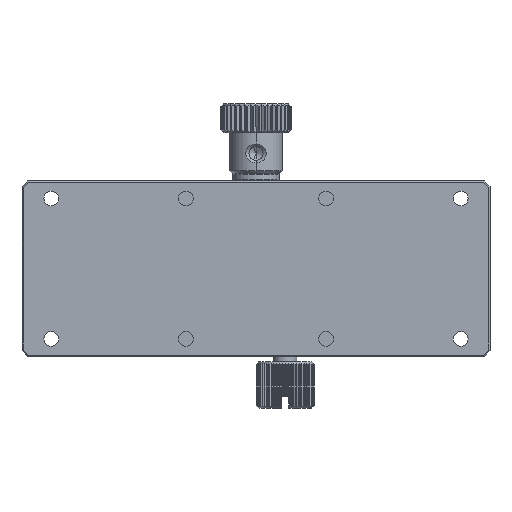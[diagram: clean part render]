
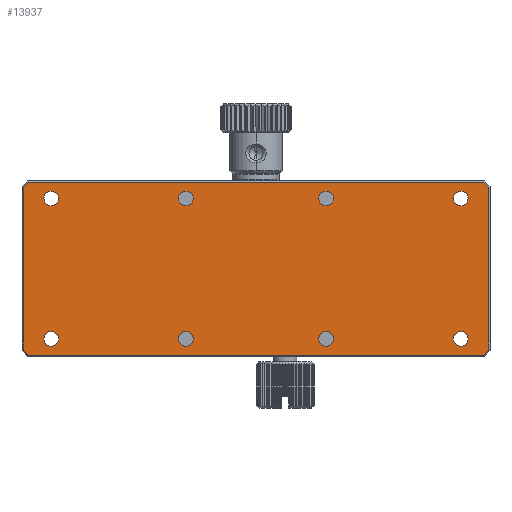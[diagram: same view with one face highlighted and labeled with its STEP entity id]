
A CAD part, front view. The second image highlights one B-rep face of the part: STEP entity #13937.
In plain terms, the highlighted planar face has unit normal (0, -1, 0).
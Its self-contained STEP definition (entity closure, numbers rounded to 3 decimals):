
#106=CARTESIAN_POINT('',(-12.,-11.3,-12.));
#107=DIRECTION('',(0.,1.,0.));
#108=DIRECTION('',(1.,0.,0.));
#109=AXIS2_PLACEMENT_3D('',#106,#107,#108);
#111=CARTESIAN_POINT('',(-12.,-11.3,-12.));
#112=DIRECTION('',(0.,1.,0.));
#113=DIRECTION('',(-1.,0.,0.));
#114=AXIS2_PLACEMENT_3D('',#111,#112,#113);
#116=CARTESIAN_POINT('',(12.,-11.3,-12.));
#117=DIRECTION('',(0.,1.,0.));
#118=DIRECTION('',(1.,0.,0.));
#119=AXIS2_PLACEMENT_3D('',#116,#117,#118);
#121=CARTESIAN_POINT('',(12.,-11.3,-12.));
#122=DIRECTION('',(0.,1.,0.));
#123=DIRECTION('',(-1.,0.,0.));
#124=AXIS2_PLACEMENT_3D('',#121,#122,#123);
#126=CARTESIAN_POINT('',(-12.,-11.3,12.));
#127=DIRECTION('',(0.,1.,0.));
#128=DIRECTION('',(1.,0.,0.));
#129=AXIS2_PLACEMENT_3D('',#126,#127,#128);
#131=CARTESIAN_POINT('',(-12.,-11.3,12.));
#132=DIRECTION('',(0.,1.,0.));
#133=DIRECTION('',(-1.,0.,0.));
#134=AXIS2_PLACEMENT_3D('',#131,#132,#133);
#136=CARTESIAN_POINT('',(12.,-11.3,12.));
#137=DIRECTION('',(0.,1.,0.));
#138=DIRECTION('',(1.,0.,0.));
#139=AXIS2_PLACEMENT_3D('',#136,#137,#138);
#141=CARTESIAN_POINT('',(12.,-11.3,12.));
#142=DIRECTION('',(0.,1.,0.));
#143=DIRECTION('',(-1.,0.,0.));
#144=AXIS2_PLACEMENT_3D('',#141,#142,#143);
#146=CARTESIAN_POINT('',(12.,-11.3,-35.));
#147=DIRECTION('',(0.,1.,0.));
#148=DIRECTION('',(1.,0.,0.));
#149=AXIS2_PLACEMENT_3D('',#146,#147,#148);
#151=CARTESIAN_POINT('',(12.,-11.3,-35.));
#152=DIRECTION('',(0.,1.,0.));
#153=DIRECTION('',(-1.,0.,0.));
#154=AXIS2_PLACEMENT_3D('',#151,#152,#153);
#156=CARTESIAN_POINT('',(-12.,-11.3,-35.));
#157=DIRECTION('',(0.,1.,0.));
#158=DIRECTION('',(1.,0.,0.));
#159=AXIS2_PLACEMENT_3D('',#156,#157,#158);
#161=CARTESIAN_POINT('',(-12.,-11.3,-35.));
#162=DIRECTION('',(0.,1.,0.));
#163=DIRECTION('',(-1.,0.,0.));
#164=AXIS2_PLACEMENT_3D('',#161,#162,#163);
#166=CARTESIAN_POINT('',(12.,-11.3,35.));
#167=DIRECTION('',(0.,1.,0.));
#168=DIRECTION('',(1.,0.,0.));
#169=AXIS2_PLACEMENT_3D('',#166,#167,#168);
#171=CARTESIAN_POINT('',(12.,-11.3,35.));
#172=DIRECTION('',(0.,1.,0.));
#173=DIRECTION('',(-1.,0.,0.));
#174=AXIS2_PLACEMENT_3D('',#171,#172,#173);
#176=CARTESIAN_POINT('',(-12.,-11.3,35.));
#177=DIRECTION('',(0.,1.,0.));
#178=DIRECTION('',(1.,0.,0.));
#179=AXIS2_PLACEMENT_3D('',#176,#177,#178);
#181=CARTESIAN_POINT('',(-12.,-11.3,35.));
#182=DIRECTION('',(0.,1.,0.));
#183=DIRECTION('',(-1.,0.,0.));
#184=AXIS2_PLACEMENT_3D('',#181,#182,#183);
#186=DIRECTION('',(-0.707,0.,-0.707));
#187=VECTOR('',#186,1.249);
#188=CARTESIAN_POINT('',(-13.917,-11.3,39.8));
#189=LINE('',#188,#187);
#190=DIRECTION('',(-1.,0.,0.));
#191=VECTOR('',#190,27.834);
#192=CARTESIAN_POINT('',(13.917,-11.3,39.8));
#193=LINE('',#192,#191);
#194=DIRECTION('',(-0.707,0.,0.707));
#195=VECTOR('',#194,1.249);
#196=CARTESIAN_POINT('',(14.8,-11.3,38.917));
#197=LINE('',#196,#195);
#198=DIRECTION('',(0.,0.,1.));
#199=VECTOR('',#198,77.834);
#200=CARTESIAN_POINT('',(14.8,-11.3,-38.917));
#201=LINE('',#200,#199);
#202=DIRECTION('',(0.707,0.,0.707));
#203=VECTOR('',#202,1.249);
#204=CARTESIAN_POINT('',(13.917,-11.3,-39.8));
#205=LINE('',#204,#203);
#206=DIRECTION('',(1.,0.,0.));
#207=VECTOR('',#206,27.834);
#208=CARTESIAN_POINT('',(-13.917,-11.3,-39.8));
#209=LINE('',#208,#207);
#210=DIRECTION('',(0.707,0.,-0.707));
#211=VECTOR('',#210,1.249);
#212=CARTESIAN_POINT('',(-14.8,-11.3,-38.917));
#213=LINE('',#212,#211);
#214=DIRECTION('',(0.,0.,-1.));
#215=VECTOR('',#214,77.834);
#216=CARTESIAN_POINT('',(-14.8,-11.3,38.917));
#217=LINE('',#216,#215);
#11006=CARTESIAN_POINT('',(-10.75,-11.3,-12.));
#11007=CARTESIAN_POINT('',(-13.25,-11.3,-12.));
#11008=VERTEX_POINT('',#11006);
#11009=VERTEX_POINT('',#11007);
#11010=CARTESIAN_POINT('',(13.25,-11.3,-12.));
#11011=CARTESIAN_POINT('',(10.75,-11.3,-12.));
#11012=VERTEX_POINT('',#11010);
#11013=VERTEX_POINT('',#11011);
#11014=CARTESIAN_POINT('',(-10.75,-11.3,12.));
#11015=CARTESIAN_POINT('',(-13.25,-11.3,12.));
#11016=VERTEX_POINT('',#11014);
#11017=VERTEX_POINT('',#11015);
#11018=CARTESIAN_POINT('',(13.25,-11.3,12.));
#11019=CARTESIAN_POINT('',(10.75,-11.3,12.));
#11020=VERTEX_POINT('',#11018);
#11021=VERTEX_POINT('',#11019);
#11458=CARTESIAN_POINT('',(-13.917,-11.3,39.8));
#11459=CARTESIAN_POINT('',(-14.8,-11.3,38.917));
#11460=VERTEX_POINT('',#11458);
#11461=VERTEX_POINT('',#11459);
#11464=CARTESIAN_POINT('',(-14.8,-11.3,-38.917));
#11465=VERTEX_POINT('',#11464);
#11466=CARTESIAN_POINT('',(-13.917,-11.3,-39.8));
#11467=VERTEX_POINT('',#11466);
#11472=CARTESIAN_POINT('',(13.917,-11.3,-39.8));
#11473=VERTEX_POINT('',#11472);
#11474=CARTESIAN_POINT('',(14.8,-11.3,-38.917));
#11475=VERTEX_POINT('',#11474);
#11480=CARTESIAN_POINT('',(14.8,-11.3,38.917));
#11481=VERTEX_POINT('',#11480);
#11482=CARTESIAN_POINT('',(13.917,-11.3,39.8));
#11483=VERTEX_POINT('',#11482);
#13686=CARTESIAN_POINT('',(13.25,-11.3,-35.));
#13687=CARTESIAN_POINT('',(10.75,-11.3,-35.));
#13688=VERTEX_POINT('',#13686);
#13689=VERTEX_POINT('',#13687);
#13690=CARTESIAN_POINT('',(-10.75,-11.3,-35.));
#13691=CARTESIAN_POINT('',(-13.25,-11.3,-35.));
#13692=VERTEX_POINT('',#13690);
#13693=VERTEX_POINT('',#13691);
#13694=CARTESIAN_POINT('',(13.25,-11.3,35.));
#13695=CARTESIAN_POINT('',(10.75,-11.3,35.));
#13696=VERTEX_POINT('',#13694);
#13697=VERTEX_POINT('',#13695);
#13698=CARTESIAN_POINT('',(-10.75,-11.3,35.));
#13699=CARTESIAN_POINT('',(-13.25,-11.3,35.));
#13700=VERTEX_POINT('',#13698);
#13701=VERTEX_POINT('',#13699);
#13868=CARTESIAN_POINT('',(0.,-11.3,0.));
#13869=DIRECTION('',(0.,1.,0.));
#13870=DIRECTION('',(1.,0.,0.));
#13871=AXIS2_PLACEMENT_3D('',#13868,#13869,#13870);
#13872=PLANE('',#13871);
#13874=ORIENTED_EDGE('',*,*,#13873,.F.);
#13875=ORIENTED_EDGE('',*,*,#13846,.F.);
#13876=ORIENTED_EDGE('',*,*,#13858,.F.);
#13878=ORIENTED_EDGE('',*,*,#13877,.F.);
#13880=ORIENTED_EDGE('',*,*,#13879,.F.);
#13882=ORIENTED_EDGE('',*,*,#13881,.F.);
#13884=ORIENTED_EDGE('',*,*,#13883,.F.);
#13886=ORIENTED_EDGE('',*,*,#13885,.F.);
#13887=EDGE_LOOP('',(#13874,#13875,#13876,#13878,#13880,#13882,#13884,#13886));
#13888=FACE_OUTER_BOUND('',#13887,.F.);
#13890=ORIENTED_EDGE('',*,*,#13889,.F.);
#13892=ORIENTED_EDGE('',*,*,#13891,.F.);
#13893=EDGE_LOOP('',(#13890,#13892));
#13894=FACE_BOUND('',#13893,.F.);
#13896=ORIENTED_EDGE('',*,*,#13895,.F.);
#13898=ORIENTED_EDGE('',*,*,#13897,.F.);
#13899=EDGE_LOOP('',(#13896,#13898));
#13900=FACE_BOUND('',#13899,.F.);
#13902=ORIENTED_EDGE('',*,*,#13901,.F.);
#13904=ORIENTED_EDGE('',*,*,#13903,.F.);
#13905=EDGE_LOOP('',(#13902,#13904));
#13906=FACE_BOUND('',#13905,.F.);
#13908=ORIENTED_EDGE('',*,*,#13907,.F.);
#13910=ORIENTED_EDGE('',*,*,#13909,.F.);
#13911=EDGE_LOOP('',(#13908,#13910));
#13912=FACE_BOUND('',#13911,.F.);
#13914=ORIENTED_EDGE('',*,*,#13913,.F.);
#13916=ORIENTED_EDGE('',*,*,#13915,.F.);
#13917=EDGE_LOOP('',(#13914,#13916));
#13918=FACE_BOUND('',#13917,.F.);
#13920=ORIENTED_EDGE('',*,*,#13919,.F.);
#13922=ORIENTED_EDGE('',*,*,#13921,.F.);
#13923=EDGE_LOOP('',(#13920,#13922));
#13924=FACE_BOUND('',#13923,.F.);
#13926=ORIENTED_EDGE('',*,*,#13925,.F.);
#13928=ORIENTED_EDGE('',*,*,#13927,.F.);
#13929=EDGE_LOOP('',(#13926,#13928));
#13930=FACE_BOUND('',#13929,.F.);
#13932=ORIENTED_EDGE('',*,*,#13931,.F.);
#13934=ORIENTED_EDGE('',*,*,#13933,.F.);
#13935=EDGE_LOOP('',(#13932,#13934));
#13936=FACE_BOUND('',#13935,.F.);
#13937=ADVANCED_FACE('',(#13888,#13894,#13900,#13906,#13912,#13918,#13924,
#13930,#13936),#13872,.F.);
#110=CIRCLE('',#109,1.25);
#115=CIRCLE('',#114,1.25);
#120=CIRCLE('',#119,1.25);
#125=CIRCLE('',#124,1.25);
#130=CIRCLE('',#129,1.25);
#135=CIRCLE('',#134,1.25);
#140=CIRCLE('',#139,1.25);
#145=CIRCLE('',#144,1.25);
#150=CIRCLE('',#149,1.25);
#155=CIRCLE('',#154,1.25);
#160=CIRCLE('',#159,1.25);
#165=CIRCLE('',#164,1.25);
#170=CIRCLE('',#169,1.25);
#175=CIRCLE('',#174,1.25);
#180=CIRCLE('',#179,1.25);
#185=CIRCLE('',#184,1.25);
#13846=EDGE_CURVE('',#11483,#11460,#193,.T.);
#13858=EDGE_CURVE('',#11481,#11483,#197,.T.);
#13873=EDGE_CURVE('',#11460,#11461,#189,.T.);
#13877=EDGE_CURVE('',#11475,#11481,#201,.T.);
#13879=EDGE_CURVE('',#11473,#11475,#205,.T.);
#13881=EDGE_CURVE('',#11467,#11473,#209,.T.);
#13883=EDGE_CURVE('',#11465,#11467,#213,.T.);
#13885=EDGE_CURVE('',#11461,#11465,#217,.T.);
#13889=EDGE_CURVE('',#11012,#11013,#120,.T.);
#13891=EDGE_CURVE('',#11013,#11012,#125,.T.);
#13895=EDGE_CURVE('',#11016,#11017,#130,.T.);
#13897=EDGE_CURVE('',#11017,#11016,#135,.T.);
#13901=EDGE_CURVE('',#11020,#11021,#140,.T.);
#13903=EDGE_CURVE('',#11021,#11020,#145,.T.);
#13907=EDGE_CURVE('',#13688,#13689,#150,.T.);
#13909=EDGE_CURVE('',#13689,#13688,#155,.T.);
#13913=EDGE_CURVE('',#13692,#13693,#160,.T.);
#13915=EDGE_CURVE('',#13693,#13692,#165,.T.);
#13919=EDGE_CURVE('',#13696,#13697,#170,.T.);
#13921=EDGE_CURVE('',#13697,#13696,#175,.T.);
#13925=EDGE_CURVE('',#13700,#13701,#180,.T.);
#13927=EDGE_CURVE('',#13701,#13700,#185,.T.);
#13931=EDGE_CURVE('',#11008,#11009,#110,.T.);
#13933=EDGE_CURVE('',#11009,#11008,#115,.T.);
